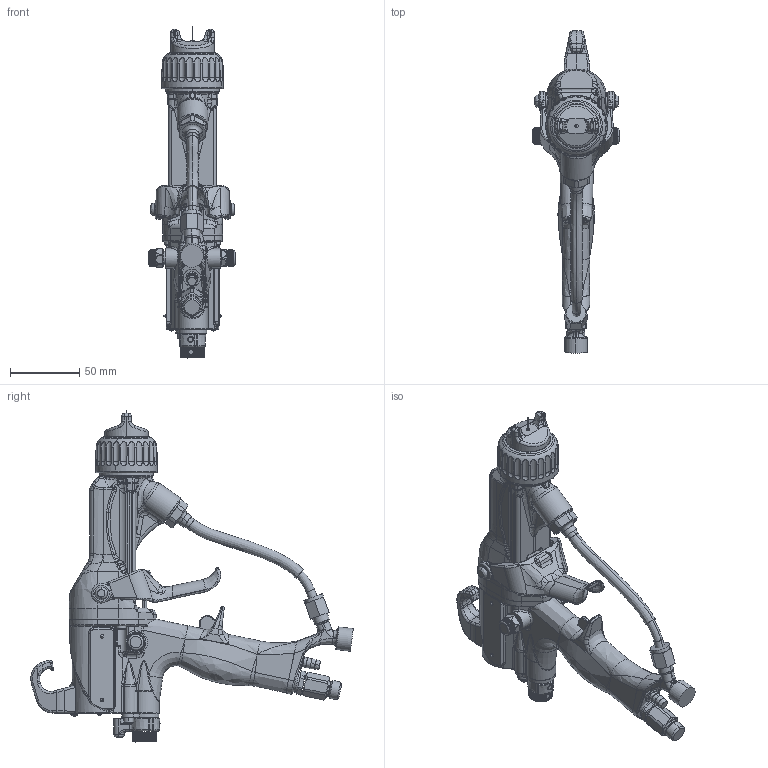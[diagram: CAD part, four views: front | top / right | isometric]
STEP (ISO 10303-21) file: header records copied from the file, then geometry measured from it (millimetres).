
FILE_DESCRIPTION((''),'2;1');
FILE_NAME('L60T10-EN-U_PRT','2020-05-18T18:13:50',('qusrh3'),(''),'CREO PARAMETRIC BY PTC INC, 2019030','CREO PARAMETRIC BY PTC INC, 2019030','');
FILE_SCHEMA(('CONFIG_CONTROL_DESIGN'));
Products named in the file (1): L60T10-EN-U_PRT
Bounding box: 62.61 x 233.22 x 240.18 mm (x, y, z)
Surface area: 91788.7 mm2 (no closed solid volume)
Topology: 0 solids, 65 shells, 2666 faces, 7353 edges, 4607 vertices
Faces by surface type: bspline 877, cylinder 667, plane 571, torus 255, cone 237, sphere 55, extrusion 4
Entity records: 129803 total; most frequent: CARTESIAN_POINT 71297, ORIENTED_EDGE 13374, DIRECTION 9984, EDGE_CURVE 7346, VERTEX_POINT 4607, AXIS2_PLACEMENT_3D 4042, B_SPLINE_CURVE_WITH_KNOTS 3197, EDGE_LOOP 2666
